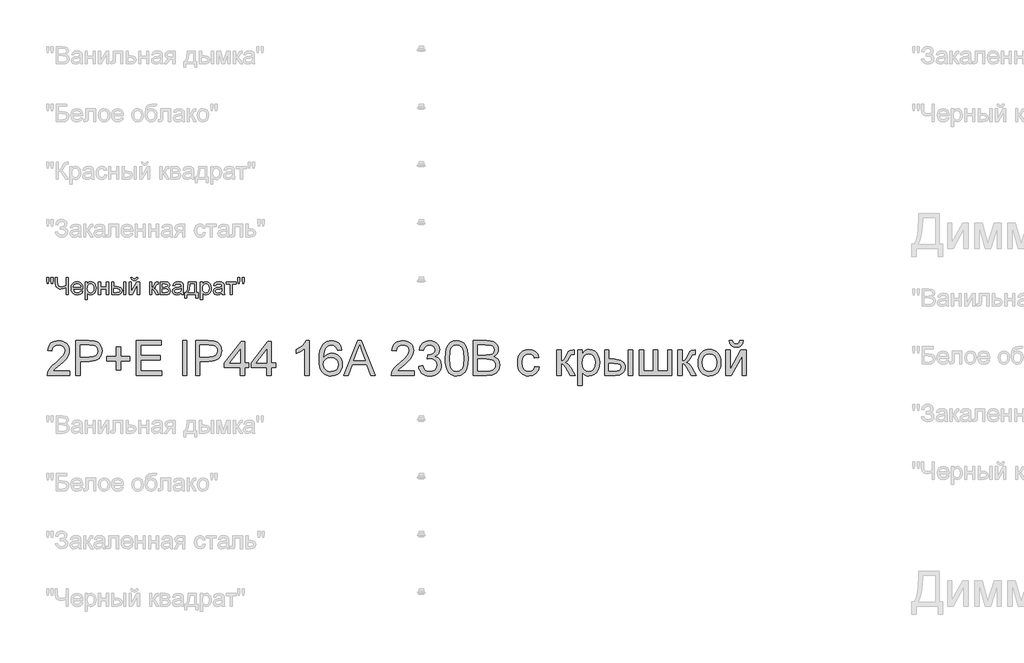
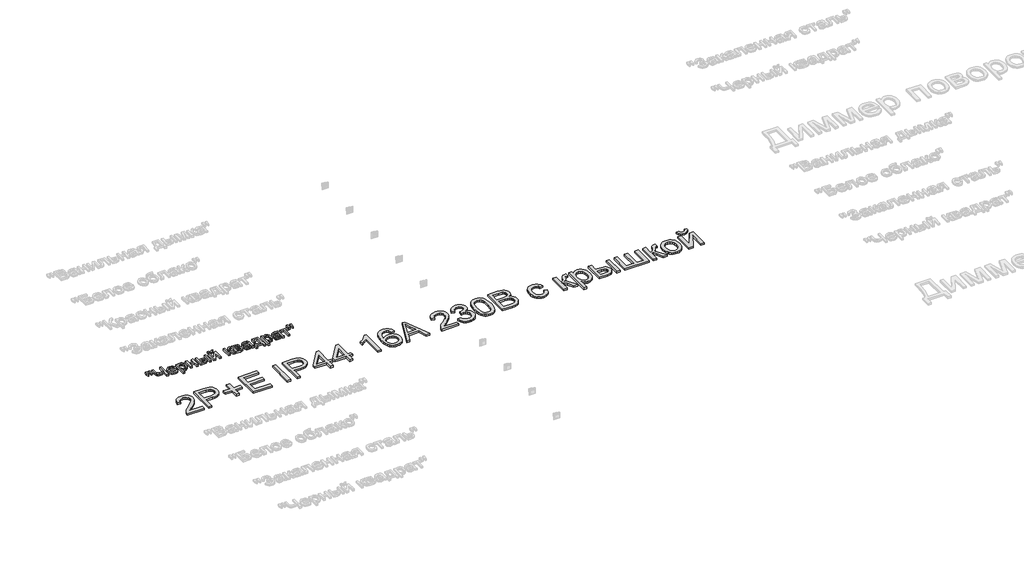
# One storey, part 152 of 168: 2 proxies.
"""IFC4 building model written with IfcOpenShell, lengths in millimetres."""

from ifc_helpers import new_model, si_unit, origin, origin_with_axes, place, context, project, spatial, polyline, outline, extrude, element, save

model = new_model("IFC4")

# Units and contexts
model_context = context("Model", 3, world=origin())
ifc_project = project(units=[si_unit("LENGTHUNIT", "METRE", prefix="MILLI")], contexts=[model_context])

# Site, building, storey
site = spatial("IfcSite", under=ifc_project)
building = spatial("IfcBuilding", under=site)
storey = spatial("IfcBuildingStorey", under=building, Name="Этаж 01", Elevation=0.0)

# Proxies
placement = place(None, origin())
element("IfcBuildingElementProxy", 1, Name="300 мм Arial 2", ObjectType="300 мм Arial 2", at=placement, inside=storey, context=model_context, shape_type="SweptSolid", body=[
    extrude(outline(polyline([(63778.0323041, -9210.7345653), (63778.0323041, -9248.4056816), (63580.2589435, -9248.4056816), (63584.3056455, -9222.4332127), (63593.5946658, -9202.1353236), (63607.1879056, -9182.4444398), (63626.8511982, -9161.8338511), (63654.3503773, -9138.776847), (63695.0013378, -9102.6692292), (63719.3919141, -9076.0161786), (63731.5872022, -9054.3847173), (63735.6522983, -9033.3418672), (63731.8171285, -9014.4787179), (63720.3116191, -8998.7977478), (63702.6256922, -8988.2303375), (63680.2492698, -8984.7078674), (63656.7508074, -8988.1475641), (63638.4946633, -8998.466654), (63626.7132424, -9014.8557969), (63622.6389493, -9036.5056523), (63584.967833, -9031.7967628), (63594.1005036, -8995.3580512), (63602.6468622, -8980.8221139), (63613.8465697, -8968.7417888), (63627.4421086, -8959.2458348), (63643.1759617, -8952.4630105), (63681.0586102, -8947.0367511), (63701.2484339, -8948.5450673), (63719.2171701, -8953.0700158), (63734.9648188, -8960.6115967), (63748.4913799, -8971.16981), (63759.3553951, -8983.9629064), (63767.1154059, -8998.2091366), (63771.7714124, -9013.9085008), (63773.3234146, -9031.0609988), (63771.6495515, -9049.0780195), (63766.6279623, -9066.7823406), (63757.7160209, -9084.7901642), (63744.3711016, -9103.7176929), (63723.0983252, -9126.3148444), (63690.4028129, -9155.3315368), (63647.0663138, -9191.5679133), (63630.0701657, -9210.7345653), (63778.0323041, -9210.7345653)])), origin_with_axes(), (0.0, 0.0, 1.0), 20.0),
    extrude(outline(polyline([(63829.830089, -9248.4056816), (63829.830089, -8947.0367511), (63941.5190628, -8947.0367511), (63986.547819, -8949.9062307), (64006.6249789, -8955.2681108), (64023.1520775, -8963.9961111), (64036.4602087, -8976.4857048), (64046.8804662, -8993.1323651), (64053.6127067, -9012.7680666), (64055.8567869, -9034.224784), (64054.3415729, -9052.7246498), (64049.795931, -9069.7437906), (64042.2198612, -9085.2822064), (64031.6133634, -9099.3398971), (64017.0521342, -9110.9925593), (63997.61187, -9119.3158895), (63973.2925708, -9124.3098875), (63944.0942367, -9125.9745536), (63867.5012053, -9125.9745536), (63867.5012053, -9248.4056816), (63829.830089, -9248.4056816)]), holes=[polyline([(63867.5012053, -9088.3034373), (63946.3015287, -9088.3034373), (63979.7052139, -9084.8453465), (64001.7781336, -9074.4710742), (64014.0837863, -9057.824414), (64018.1856706, -9035.5491592), (64015.7668464, -9018.6265874), (64008.5103741, -9004.352766), (63997.3175644, -8993.6106117), (63983.0897282, -8987.2830414), (63945.4186119, -8984.7078674), (63867.5012053, -8984.7078674), (63867.5012053, -9088.3034373)])]), origin_with_axes(), (0.0, 0.0, 1.0), 20.0),
    extrude(outline(polyline([(64178.2879149, -9201.3167862), (64178.2879149, -9121.265664), (64098.2367927, -9121.265664), (64098.2367927, -9083.5945477), (64178.2879149, -9083.5945477), (64178.2879149, -9003.5434256), (64215.9590312, -9003.5434256), (64215.9590312, -9083.5945477), (64296.0101533, -9083.5945477), (64296.0101533, -9121.265664), (64215.9590312, -9121.265664), (64215.9590312, -9201.3167862), (64178.2879149, -9201.3167862)])), origin_with_axes(), (0.0, 0.0, 1.0), 20.0),
    extrude(outline(polyline([(64352.5168278, -9248.4056816), (64352.5168278, -8947.0367511), (64569.1257465, -8947.0367511), (64569.1257465, -8984.7078674), (64390.1879441, -8984.7078674), (64390.1879441, -9074.1767687), (64559.7079675, -9074.1767687), (64559.7079675, -9111.847885), (64390.1879441, -9111.847885), (64390.1879441, -9210.7345653), (64573.8346361, -9210.7345653), (64573.8346361, -9248.4056816), (64352.5168278, -9248.4056816)])), origin_with_axes(), (0.0, 0.0, 1.0), 20.0),
    extrude(outline(polyline([(64752.7724385, -9248.4056816), (64752.7724385, -8947.0367511), (64790.4435548, -8947.0367511), (64790.4435548, -9248.4056816), (64752.7724385, -9248.4056816)])), origin_with_axes(), (0.0, 0.0, 1.0), 20.0),
    extrude(outline(polyline([(64865.7857875, -9248.4056816), (64865.7857875, -8947.0367511), (64977.4747612, -8947.0367511), (65022.5035174, -8949.9062307), (65042.5806773, -8955.2681108), (65059.1077759, -8963.9961111), (65072.4159071, -8976.4857048), (65082.8361646, -8993.1323651), (65089.5684051, -9012.7680666), (65091.8124853, -9034.224784), (65090.2972713, -9052.7246498), (65085.7516294, -9069.7437906), (65078.1755596, -9085.2822064), (65067.5690618, -9099.3398971), (65053.0078326, -9110.9925593), (65033.5675684, -9119.3158895), (65009.2482693, -9124.3098875), (64980.0499352, -9125.9745536), (64903.4569038, -9125.9745536), (64903.4569038, -9248.4056816), (64865.7857875, -9248.4056816)]), holes=[polyline([(64903.4569038, -9088.3034373), (64982.2572271, -9088.3034373), (65015.6609123, -9084.8453465), (65037.733832, -9074.4710742), (65050.0394847, -9057.824414), (65054.141369, -9035.5491592), (65051.7225449, -9018.6265874), (65044.4660725, -9004.352766), (65033.2732628, -8993.6106117), (65019.0454266, -8987.2830414), (64981.3743103, -8984.7078674), (64903.4569038, -8984.7078674), (64903.4569038, -9088.3034373)])]), origin_with_axes(), (0.0, 0.0, 1.0), 20.0),
    extrude(outline(polyline([(65251.9147296, -9248.4056816), (65251.9147296, -9177.7723385), (65115.356933, -9177.7723385), (65115.356933, -9140.1012222), (65261.3325087, -8951.7456407), (65289.5858459, -8951.7456407), (65289.5858459, -9140.1012222), (65327.2569622, -9140.1012222), (65327.2569622, -9177.7723385), (65289.5858459, -9177.7723385), (65289.5858459, -9248.4056816), (65251.9147296, -9248.4056816)]), holes=[polyline([(65251.9147296, -9140.1012222), (65251.9147296, -9023.7033589), (65161.7100644, -9140.1012222), (65251.9147296, -9140.1012222)])]), origin_with_axes(), (0.0, 0.0, 1.0), 20.0),
    extrude(outline(polyline([(65482.650317, -9248.4056816), (65482.650317, -9177.7723385), (65346.0925204, -9177.7723385), (65346.0925204, -9140.1012222), (65492.068096, -8951.7456407), (65520.3214333, -8951.7456407), (65520.3214333, -9140.1012222), (65557.9925496, -9140.1012222), (65557.9925496, -9177.7723385), (65520.3214333, -9177.7723385), (65520.3214333, -9248.4056816), (65482.650317, -9248.4056816)]), holes=[polyline([(65482.650317, -9140.1012222), (65482.650317, -9023.7033589), (65392.4456517, -9140.1012222), (65482.650317, -9140.1012222)])]), origin_with_axes(), (0.0, 0.0, 1.0), 20.0),
    extrude(outline(polyline([(65849.9437009, -9248.4056816), (65812.2725846, -9248.4056816), (65812.2725846, -9013.5498158), (65776.5880311, -9038.9704617), (65736.930352, -9057.9899609), (65736.930352, -9022.3789837), (65766.5172615, -9006.2841464), (65792.1494395, -8987.1358886), (65812.3553581, -8966.7736202), (65825.6634893, -8947.0367511), (65849.9437009, -8947.0367511), (65849.9437009, -9248.4056816)])), origin_with_axes(), (0.0, 0.0, 1.0), 20.0),
    extrude(outline(polyline([(66132.4770732, -9027.0878733), (66094.8059569, -9031.7967628), (66088.735904, -9013.1267516), (66080.5321355, -9000.3796404), (66063.4440168, -8988.6258107), (66042.7874428, -8984.7078674), (66025.2762598, -8986.9887358), (66008.7951465, -8993.8313409), (65994.6408867, -9008.2431181), (65983.080195, -9028.0811547), (65975.2718997, -9056.1413538), (65972.3748289, -9095.2196188), (65987.4855819, -9077.5888742), (66005.5945731, -9065.1636598), (66025.6901271, -9057.7968228), (66046.7605684, -9055.3412105), (66064.8603625, -9057.0196721), (66081.5622051, -9062.0550569), (66096.8660961, -9070.4473649), (66110.7720355, -9082.1965961), (66122.3281287, -9096.6037748), (66130.582481, -9112.969925), (66135.5350923, -9131.2950469), (66137.1859628, -9151.5791404), (66134.0773599, -9178.5540877), (66124.7515513, -9203.5608664), (66109.9810892, -9224.7692634), (66090.5385258, -9240.3490659), (66067.3067778, -9249.9231948), (66041.168762, -9253.1145711), (66018.7118655, -9250.9992496), (65998.4300713, -9244.6532852), (65980.3233793, -9234.0766779), (65964.3917896, -9219.2694276), (65951.403256, -9199.6061349), (65942.1257319, -9174.4614005), (65936.5592174, -9143.8352244), (65934.7037126, -9107.7276066), (65936.7638518, -9067.2467916), (65942.9442693, -9032.6980737), (65953.2449652, -9004.081453), (65967.6659394, -8981.3969295), (65983.2963257, -8966.3643514), (66001.4191125, -8955.6267957), (66022.0342998, -8949.1842623), (66045.1418876, -8947.0367511), (66078.1960849, -8952.352646), (66104.6651944, -8968.3003304), (66123.206447, -8993.6290058), (66132.4770732, -9027.0878733)]), holes=[polyline([(65972.3748289, -9150.9905292), (65974.5545298, -9167.6831748), (65981.0936322, -9183.6216622), (65991.2471753, -9197.3252665), (66004.2701979, -9207.3132627), (66019.9879562, -9213.4109068), (66038.2257061, -9215.4434548), (66063.0853319, -9211.231206), (66082.6290629, -9198.5944594), (66095.2934006, -9178.7288317), (66099.5148465, -9152.8299392), (66095.3485829, -9127.9703134), (66082.8497921, -9109.0151936), (66062.9749673, -9097.0130435), (66036.6806017, -9093.0123268), (66011.8577641, -9097.0130435), (65991.1000225, -9109.0151936), (65977.0561273, -9127.5104609), (65972.3748289, -9150.9905292)])]), origin_with_axes(), (0.0, 0.0, 1.0), 20.0),
    extrude(outline(polyline([(66149.1789158, -9248.4056816), (66269.4763282, -8947.0367511), (66301.5556382, -8947.0367511), (66421.8530506, -9248.4056816), (66382.0482188, -9248.4056816), (66347.5408876, -9154.2278908), (66223.4175025, -9154.2278908), (66188.9837477, -9248.4056816), (66149.1789158, -9248.4056816)]), holes=[polyline([(66237.2498655, -9116.5567745), (66333.782101, -9116.5567745), (66306.6324098, -9042.4653407), (66285.5159832, -8984.7078674), (66266.7540015, -9035.9906176), (66237.2498655, -9116.5567745)])]), origin_with_axes(), (0.0, 0.0, 1.0), 20.0),
    extrude(outline(polyline([(66758.7593818, -9210.7345653), (66758.7593818, -9248.4056816), (66560.9860212, -9248.4056816), (66565.0327232, -9222.4332127), (66574.3217436, -9202.1353236), (66587.9149833, -9182.4444398), (66607.5782759, -9161.8338511), (66635.0774551, -9138.776847), (66675.7284155, -9102.6692292), (66700.1189918, -9076.0161786), (66712.3142799, -9054.3847173), (66716.379376, -9033.3418672), (66712.5442062, -9014.4787179), (66701.0386968, -8998.7977478), (66683.3527699, -8988.2303375), (66660.9763475, -8984.7078674), (66637.4778851, -8988.1475641), (66619.2217411, -8998.466654), (66607.4403202, -9014.8557969), (66603.3660271, -9036.5056523), (66565.6949108, -9031.7967628), (66574.8275813, -8995.3580512), (66583.3739399, -8980.8221139), (66594.5736474, -8968.7417888), (66608.1691864, -8959.2458348), (66623.9030395, -8952.4630105), (66661.7856879, -8947.0367511), (66681.9755117, -8948.5450673), (66699.9442479, -8953.0700158), (66715.6918965, -8960.6115967), (66729.2184576, -8971.16981), (66740.0824728, -8983.9629064), (66747.8424836, -8998.2091366), (66752.4984901, -9013.9085008), (66754.0504923, -9031.0609988), (66752.3766292, -9049.0780195), (66747.35504, -9066.7823406), (66738.4430986, -9084.7901642), (66725.0981793, -9103.7176929), (66703.8254029, -9126.3148444), (66671.1298906, -9155.3315368), (66627.7933915, -9191.5679133), (66610.7972434, -9210.7345653), (66758.7593818, -9210.7345653)])), origin_with_axes(), (0.0, 0.0, 1.0), 20.0),
    extrude(outline(polyline([(66796.4304981, -9168.3545594), (66834.1016144, -9163.6456699), (66842.5353092, -9187.3188763), (66854.8869472, -9203.303349), (66871.7635337, -9212.4084283), (66893.7720741, -9215.4434548), (66919.5973901, -9211.2679942), (66939.5365943, -9198.7416122), (66952.2837054, -9180.0532069), (66956.5327424, -9157.391676), (66952.3204936, -9135.8797763), (66939.6837471, -9118.4329727), (66920.5538833, -9106.872281), (66896.8622828, -9103.0187171), (66870.4483556, -9107.1389954), (66874.6422103, -9069.4678791), (66880.675475, -9069.9093375), (66903.2450354, -9067.2054048), (66923.4233629, -9059.0936069), (66937.6603961, -9045.3716084), (66942.4060738, -9025.8370745), (66938.9663772, -9009.5674933), (66928.6472872, -8996.3697267), (66912.9019378, -8987.6233322), (66893.1834629, -8984.7078674), (66873.4281997, -8987.6509234), (66857.2781801, -8996.4800913), (66845.4875622, -9011.1953711), (66838.810504, -9031.7967628), (66801.1393877, -9027.0878733), (66812.2310298, -8993.2611238), (66831.9678989, -8968.0060248), (66858.9704373, -8952.2790696), (66891.8590877, -8947.0367511), (66915.5414911, -8949.6211221), (66937.2925141, -8957.3742352), (66955.6314316, -8969.6063115), (66969.0775185, -8985.6275724), (66977.3272722, -9004.0860515), (66980.0771901, -9023.6297825), (66977.465228, -9041.8399413), (66969.6293415, -9058.3578429), (66956.6798952, -9072.4293292), (66938.7272539, -9083.3002421), (66962.3084898, -9092.8283858), (66979.7828845, -9109.0519818), (66990.5986152, -9131.0881133), (66994.2038587, -9158.0538636), (66992.401237, -9177.1653332), (66986.9933716, -9194.7684867), (66977.9802628, -9210.863324), (66965.3619103, -9225.4498451), (66949.9890415, -9237.5531627), (66932.7123833, -9246.1983896), (66913.5319357, -9251.3855257), (66892.4476989, -9253.1145711), (66873.3914115, -9251.6384446), (66856.0273814, -9247.2100651), (66840.3556084, -9239.8294326), (66826.3760925, -9229.496547), (66814.6544525, -9216.8184138), (66805.7563067, -9202.4020381), (66799.6816553, -9186.24742), (66796.4304981, -9168.3545594)])), origin_with_axes(), (0.0, 0.0, 1.0), 20.0),
    extrude(outline(polyline([(67027.1660855, -9100.1492375), (67029.9343975, -9051.9107109), (67038.2393336, -9013.4394512), (67051.9981202, -8984.1468474), (67071.1279839, -8963.4442881), (67095.7668806, -8951.1386354), (67126.0527658, -8947.0367511), (67149.2661197, -8949.4647723), (67170.0514524, -8956.7488358), (67187.4338767, -8968.6038331), (67200.4385052, -8984.7446556), (67210.2609545, -9005.0333477), (67218.096841, -9029.3319534), (67223.2287948, -9060.1880558), (67224.9394461, -9100.1492375), (67222.1987253, -9148.1118526), (67213.9765627, -9186.4911418), (67200.3005495, -9215.8113368), (67181.1982769, -9236.5966695), (67156.504198, -9248.9850957), (67126.0527658, -9253.1145711), (67105.3042213, -9251.3211464), (67086.9101215, -9245.9408722), (67070.8704665, -9236.9737486), (67057.1852563, -9224.4197755), (67044.0518691, -9201.7260549), (67034.6708782, -9173.4497251), (67029.0422837, -9139.5907859), (67027.1660855, -9100.1492375)]), holes=[polyline([(67064.8372018, -9100.0756611), (67069.2517858, -9159.3322535), (67074.7700157, -9179.6002522), (67082.4955376, -9193.6280525), (67102.2140125, -9209.9896042), (67126.0527658, -9215.4434548), (67149.8915191, -9209.9712101), (67169.609994, -9193.5544761), (67177.3355159, -9179.5036831), (67182.8537459, -9159.240283), (67187.2683298, -9100.0756611), (67183.0008987, -9042.152641), (67177.6666097, -9021.9513209), (67170.1986052, -9007.5901275), (67150.5169185, -8990.4284325), (67125.6113074, -8984.7078674), (67102.0300715, -8989.7478508), (67083.0841488, -9004.8678008), (67075.1011095, -9020.5027856), (67069.3989386, -9041.5824239), (67064.8372018, -9100.0756611)])]), origin_with_axes(), (0.0, 0.0, 1.0), 20.0),
    extrude(outline(polyline([(67272.0283415, -9248.4056816), (67272.0283415, -8947.0367511), (67387.0282532, -8947.0367511), (67418.6569077, -8949.2532401), (67443.3509867, -8955.9027072), (67462.2785153, -8967.1506992), (67476.607519, -8983.162763), (67485.629825, -9001.9983212), (67488.6372603, -9021.7167961), (67486.1080715, -9039.8625756), (67478.5205054, -9056.9231031), (67465.8193795, -9071.849915), (67447.9495116, -9083.5945477), (67469.2958644, -9094.7413722), (67485.0688049, -9111.7007322), (67494.8084807, -9133.3505876), (67498.0550393, -9158.5688983), (67495.8385503, -9179.5841573), (67489.1890833, -9199.072706), (67479.2654664, -9215.6457899), (67467.2265281, -9227.9146544), (67452.4836572, -9236.7990046), (67434.4482424, -9243.2185454), (67386.1453364, -9248.4056816), (67272.0283415, -9248.4056816)]), holes=[polyline([(67309.6994578, -9069.4678791), (67378.4933909, -9069.4678791), (67418.6661048, -9066.2305176), (67432.728394, -9060.6479083), (67442.8359519, -9052.2877899), (67448.9335959, -9041.2789212), (67450.966144, -9027.7500609), (67449.0715517, -9014.6166736), (67443.3877749, -9003.1755436), (67434.1723309, -8994.2452082), (67421.6827371, -8988.6442048), (67373.2694666, -8984.7078674), (67309.6994578, -8984.7078674), (67309.6994578, -9069.4678791)]), polyline([(67309.6994578, -9210.7345653), (67386.9546768, -9210.7345653), (67414.9137084, -9209.2630373), (67438.5685207, -9201.0592688), (67454.2402937, -9184.320638), (67458.8480157, -9172.4932319), (67460.383923, -9158.9367803), (67458.5813013, -9143.1914309), (67453.1734359, -9129.6533735), (67443.7280657, -9119.0675691), (67429.8129292, -9112.1789788), (67410.1036513, -9108.3989913), (67383.2758568, -9107.1389954), (67309.6994578, -9107.1389954), (67309.6994578, -9210.7345653)])]), origin_with_axes(), (0.0, 0.0, 1.0), 20.0),
    extrude(outline(polyline([(67804.1328593, -9168.3545594), (67841.8039756, -9173.063449), (67831.3009447, -9206.5683017), (67811.5640756, -9231.88778), (67784.4511726, -9247.8078733), (67751.8200396, -9253.1145711), (67730.6921168, -9251.2636648), (67711.7484933, -9245.710946), (67694.9891691, -9236.4564145), (67680.4141443, -9223.5000705), (67668.6166286, -9207.0856357), (67660.1898317, -9187.456832), (67655.1337535, -9164.6136594), (67653.4483941, -9138.5561178), (67656.3270707, -9105.032871), (67664.9631006, -9075.9793904), (67679.4944394, -9052.5177162), (67700.0590429, -9035.7698884), (67724.6611513, -9025.7267099), (67751.3050048, -9022.3789837), (67783.1359945, -9026.9775087), (67808.5842315, -9040.7730835), (67826.8403755, -9063.0299442), (67837.0950861, -9093.0123268), (67799.4239698, -9097.7212163), (67792.5905617, -9081.2860882), (67781.949575, -9069.5046673), (67768.0896208, -9062.4137419), (67751.5993104, -9060.0501), (67727.2547194, -9064.7038073), (67707.9317176, -9078.664929), (67695.3225622, -9102.6876233), (67691.1195104, -9137.5260482), (67695.2305917, -9172.8335227), (67707.5638356, -9196.9389904), (67726.5373495, -9210.8173387), (67750.5692408, -9215.4434548), (67770.0761836, -9212.5555811), (67786.0698534, -9203.8919602), (67797.7041215, -9189.2318626), (67804.1328593, -9168.3545594)])), origin_with_axes(), (0.0, 0.0, 1.0), 20.0),
    extrude(outline(polyline([(67992.4884409, -9027.0878733), (68030.1595572, -9027.0878733), (68030.1595572, -9121.265664), (68045.4818423, -9119.5734069), (68055.396262, -9114.4966353), (68064.1702476, -9101.2528835), (68076.0712302, -9075.0596854), (68093.2513193, -9041.0306009), (68108.4080575, -9029.9573528), (68135.962419, -9027.0878733), (68143.1729061, -9027.0878733), (68143.1729061, -9064.9797188), (68133.019363, -9064.7589896), (68114.6252633, -9068.7321151), (68101.675817, -9093.5273616), (68086.4822906, -9120.345959), (68065.1819231, -9133.4793463), (68077.1196938, -9138.7814455), (68088.9471, -9148.1394438), (68112.2708185, -9179.0231373), (68152.5906852, -9248.4056816), (68109.7692209, -9248.4056816), (68070.2586946, -9180.4946653), (68050.3930669, -9151.7630814), (68041.1040465, -9146.5483542), (68030.1595572, -9144.8101117), (68030.1595572, -9248.4056816), (67992.4884409, -9248.4056816), (67992.4884409, -9027.0878733)])), origin_with_axes(), (0.0, 0.0, 1.0), 20.0),
    extrude(outline(polyline([(68176.1351328, -9333.1656933), (68176.1351328, -9027.0878733), (68213.8062492, -9027.0878733), (68213.8062492, -9064.0232256), (68226.0935078, -9045.8038698), (68239.8522944, -9032.7900442), (68255.8919494, -9024.9817488), (68275.0218132, -9022.3789837), (68300.4976413, -9026.0210155), (68322.7728961, -9036.9471107), (68340.9094785, -9054.4950819), (68353.9692893, -9078.0027414), (68361.8603581, -9105.7594379), (68364.4907144, -9136.0545202), (68361.5200673, -9168.271786), (68352.6081259, -9197.0861432), (68338.0399989, -9221.0352611), (68318.1007948, -9238.6568087), (68294.8782438, -9249.5001305), (68270.4600764, -9253.1145711), (68253.1420315, -9250.695747), (68237.6817906, -9243.4392746), (68224.4472359, -9232.4855882), (68213.8062492, -9218.975122), (68213.8062492, -9333.1656933), (68176.1351328, -9333.1656933)]), holes=[polyline([(68213.8062492, -9139.512611), (68217.8805423, -9173.2841782), (68230.1034215, -9196.9022022), (68248.1388364, -9210.8081417), (68269.650736, -9215.4434548), (68291.5121236, -9210.6425948), (68310.0073909, -9196.2400147), (68322.6165463, -9171.7574679), (68326.8195981, -9136.7167078), (68322.7177138, -9103.1290817), (68310.4120611, -9079.1799638), (68292.4042374, -9064.832566), (68271.1958404, -9060.0501), (68249.9046699, -9065.1360686), (68231.2070675, -9080.3939744), (68218.1564537, -9105.3455707), (68213.8062492, -9139.512611)])]), origin_with_axes(), (0.0, 0.0, 1.0), 20.0),
    extrude(outline(polyline([(68614.0618599, -9027.0878733), (68651.7329762, -9027.0878733), (68651.7329762, -9248.4056816), (68614.0618599, -9248.4056816), (68614.0618599, -9027.0878733)])), origin_with_axes(), (0.0, 0.0, 1.0), 20.0),
    extrude(outline(polyline([(68406.8707202, -9027.0878733), (68444.5418365, -9027.0878733), (68444.5418365, -9107.1389954), (68491.1156971, -9107.1389954), (68531.3711844, -9111.857082), (68547.5878826, -9117.7546902), (68561.1972172, -9126.0113418), (68571.9646633, -9136.3419281), (68579.6556963, -9148.4613405), (68584.2703161, -9162.3695792), (68585.8085227, -9178.0666441), (68580.6489777, -9205.0231973), (68565.1703427, -9227.7675016), (68553.3084477, -9236.7967054), (68538.3609424, -9243.2461366), (68499.209101, -9248.4056816), (68406.8707202, -9248.4056816), (68406.8707202, -9027.0878733)]), holes=[polyline([(68444.5418365, -9210.7345653), (68483.2430224, -9210.7345653), (68513.2437991, -9208.7571995), (68533.2013974, -9202.8251024), (68544.4034041, -9192.6991504), (68548.1374064, -9178.1402205), (68545.3690944, -9165.8345678), (68537.0641583, -9154.9636548), (68519.304655, -9147.3484975), (68488.1726412, -9144.8101117), (68444.5418365, -9144.8101117), (68444.5418365, -9210.7345653)])]), origin_with_axes(), (0.0, 0.0, 1.0), 20.0),
    extrude(outline(polyline([(68708.2396507, -9027.0878733), (68745.910767, -9027.0878733), (68745.910767, -9210.7345653), (68830.6707787, -9210.7345653), (68830.6707787, -9027.0878733), (68868.341895, -9027.0878733), (68868.341895, -9210.7345653), (68953.1019067, -9210.7345653), (68953.1019067, -9027.0878733), (68990.773023, -9027.0878733), (68990.773023, -9248.4056816), (68708.2396507, -9248.4056816), (68708.2396507, -9027.0878733)])), origin_with_axes(), (0.0, 0.0, 1.0), 20.0),
    extrude(outline(polyline([(69042.5708079, -9027.0878733), (69080.2419242, -9027.0878733), (69080.2419242, -9121.265664), (69095.5642093, -9119.5734069), (69105.4786291, -9114.4966353), (69114.2526146, -9101.2528835), (69126.1535972, -9075.0596854), (69143.3336864, -9041.0306009), (69158.4904246, -9029.9573528), (69186.044786, -9027.0878733), (69193.2552731, -9027.0878733), (69193.2552731, -9064.9797188), (69183.10173, -9064.7589896), (69164.7076303, -9068.7321151), (69151.7581841, -9093.5273616), (69136.5646577, -9120.345959), (69115.2642901, -9133.4793463), (69127.2020609, -9138.7814455), (69139.029467, -9148.1394438), (69162.3531855, -9179.0231373), (69202.6730522, -9248.4056816), (69159.851588, -9248.4056816), (69120.3410617, -9180.4946653), (69100.4754339, -9151.7630814), (69091.1864136, -9146.5483542), (69080.2419242, -9144.8101117), (69080.2419242, -9248.4056816), (69042.5708079, -9248.4056816), (69042.5708079, -9027.0878733)])), origin_with_axes(), (0.0, 0.0, 1.0), 20.0),
    extrude(outline(polyline([(69216.7997208, -9137.7467774), (69218.8368674, -9109.0841715), (69224.948307, -9084.385494), (69235.1340397, -9063.6507451), (69249.3940656, -9046.8799246), (69263.7506604, -9036.160763), (69279.5971774, -9028.504219), (69296.9336164, -9023.9102925), (69315.7599775, -9022.3789837), (69336.543011, -9024.2436856), (69355.3348831, -9029.8377912), (69372.135594, -9039.1613005), (69386.9451436, -9052.2142135), (69399.0323664, -9068.5550719), (69407.666097, -9087.7424172), (69412.8463353, -9109.7762495), (69414.5730814, -9134.6565687), (69411.5196609, -9172.7139611), (69402.3593992, -9201.6846682), (69387.3590108, -9223.3805088), (69366.7852102, -9239.6133019), (69342.3486487, -9249.7392538), (69315.7599775, -9253.1145711), (69294.6734414, -9251.256767), (69275.7068253, -9245.6833548), (69258.8601292, -9236.3943344), (69244.133353, -9223.3897059), (69232.1748889, -9206.8901984), (69223.6331289, -9187.1165412), (69218.5080728, -9164.0687342), (69216.7997208, -9137.7467774)]), holes=[polyline([(69254.4708371, -9137.673201), (69258.8302388, -9171.7666649), (69271.9084437, -9196.0560737), (69291.5901304, -9210.5966095), (69315.7599775, -9215.4434548), (69339.81946, -9210.5690184), (69359.4643585, -9195.9457091), (69372.5425635, -9171.3344036), (69376.9019651, -9136.4959786), (69372.5149723, -9103.3957961), (69359.3539939, -9079.4374812), (69339.6815042, -9064.8969453), (69315.7599775, -9060.0501), (69291.5901304, -9064.8785512), (69271.9084437, -9079.3639048), (69258.8302388, -9103.5981312), (69254.4708371, -9137.673201)])]), origin_with_axes(), (0.0, 0.0, 1.0), 20.0),
    extrude(outline(polyline([(69456.9530873, -9027.0878733), (69494.6242036, -9027.0878733), (69494.6242036, -9195.8721327), (69587.1833135, -9027.0878733), (69635.8908897, -9027.0878733), (69635.8908897, -9248.4056816), (69598.2197734, -9248.4056816), (69598.2197734, -9080.6514918), (69506.2492746, -9248.4056816), (69456.9530873, -9248.4056816), (69456.9530873, -9027.0878733)])), origin_with_axes(), (0.0, 0.0, 1.0), 20.0),
    extrude(outline(polyline([(69579.3842153, -8947.0367511), (69607.6375525, -8947.0367511), (69601.5583025, -8971.160613), (69589.3538173, -8988.9385104), (69571.5759199, -8999.8921968), (69548.7764333, -9003.5434256), (69524.0363691, -8999.9197879), (69504.851323, -8989.048875), (69491.7363299, -8971.2985687), (69485.2064245, -8947.0367511), (69513.4597617, -8947.0367511), (69517.4328873, -8959.4435714), (69524.0547632, -8968.2635422), (69533.3621777, -8973.5334518), (69545.3919189, -8975.2900883), (69558.9667645, -8973.5886341), (69568.7892138, -8968.4842714), (69575.4110897, -8959.7194829), (69579.3842153, -8947.0367511)])), origin_with_axes(), (0.0, 0.0, 1.0), 20.0),
])
element("IfcBuildingElementProxy", 2, Name="150", ObjectType="150", at=placement, inside=storey, context=model_context, shape_type="SweptSolid", body=[
    extrude(outline(polyline([(63580.1485789, -8451.873446), (63575.550054, -8422.7739802), (63575.550054, -8397.7212163), (63594.3856121, -8397.7212163), (63594.3856121, -8422.7739802), (63590.2653338, -8451.873446), (63580.1485789, -8451.873446)])), origin_with_axes(), (0.0, 0.0, 1.0), 20.0),
    extrude(outline(polyline([(63617.7093306, -8451.873446), (63613.2211703, -8422.7739802), (63613.2211703, -8397.7212163), (63632.0567284, -8397.7212163), (63632.0567284, -8422.7739802), (63627.6421445, -8451.873446), (63617.7093306, -8451.873446)])), origin_with_axes(), (0.0, 0.0, 1.0), 20.0),
    extrude(outline(polyline([(63763.9056355, -8548.4056816), (63745.0700773, -8548.4056816), (63745.0700773, -8488.0730344), (63720.0908899, -8496.2400147), (63698.4226404, -8498.9623414), (63683.7395502, -8497.0999388), (63670.886673, -8491.512731), (63660.926268, -8483.0606422), (63654.9205944, -8472.6035965), (63650.8922866, -8442.6028198), (63650.8922866, -8397.7212163), (63669.7278447, -8397.7212163), (63669.7278447, -8440.064434), (63671.990319, -8460.4313009), (63678.7777418, -8472.3828673), (63688.7381468, -8478.1908043), (63700.5195677, -8480.1267833), (63722.2521966, -8477.7907326), (63745.0700773, -8470.7825806), (63745.0700773, -8397.7212163), (63763.9056355, -8397.7212163), (63763.9056355, -8548.4056816)])), origin_with_axes(), (0.0, 0.0, 1.0), 20.0),
    extrude(outline(polyline([(63871.9893657, -8515.4434548), (63890.4570418, -8517.7978996), (63883.8029763, -8531.713036), (63873.1849822, -8542.1148995), (63858.8421829, -8548.5988196), (63841.0137017, -8550.7601263), (63818.9131908, -8547.0307226), (63801.9078456, -8535.8425114), (63791.0645238, -8517.9220597), (63787.4500832, -8493.9959345), (63791.101312, -8469.2650674), (63802.0549984, -8450.7698), (63818.8304174, -8439.2366995), (63839.9468439, -8435.3923327), (63860.4056814, -8439.2275025), (63876.7534375, -8450.7330118), (63887.4725992, -8469.191491), (63891.045653, -8493.8855699), (63890.9352884, -8498.9623414), (63806.2856413, -8498.9623414), (63809.5459955, -8513.0614189), (63817.1197661, -8523.4264941), (63828.0504599, -8529.8000497), (63841.3815837, -8531.9245682), (63859.8492598, -8527.9882308), (63871.9893657, -8515.4434548)]), holes=[polyline([(63806.2856413, -8480.1267833), (63872.2100949, -8480.1267833), (63869.6625121, -8470.1755753), (63864.668514, -8463.0570587), (63853.6872364, -8456.4351828), (63839.8732675, -8454.2278908), (63827.1767401, -8455.9891259), (63816.6783077, -8461.272831), (63809.3804486, -8469.5087892), (63806.2856413, -8480.1267833)])]), origin_with_axes(), (0.0, 0.0, 1.0), 20.0),
    extrude(outline(polyline([(63909.8812112, -8590.7856874), (63909.8812112, -8437.7467774), (63928.7167693, -8437.7467774), (63928.7167693, -8456.2144536), (63941.739792, -8440.5978629), (63959.3245513, -8435.3923327), (63972.0624654, -8437.2133485), (63983.2000928, -8442.6763962), (63992.268384, -8451.4503817), (63998.7982894, -8463.2042115), (64004.0590019, -8492.2301009), (64002.5736784, -8508.3387338), (63998.1177077, -8522.7459124), (63990.8336442, -8534.7204713), (63980.8640422, -8543.5312451), (63969.2527667, -8548.952906), (63957.043683, -8550.7601263), (63940.6545401, -8545.9224781), (63928.7167693, -8533.6904018), (63928.7167693, -8590.7856874), (63909.8812112, -8590.7856874)]), holes=[polyline([(63928.7167693, -8493.9591463), (63930.7539159, -8510.8449299), (63936.8653555, -8522.6539419), (63945.8830629, -8529.6069116), (63956.6390128, -8531.9245682), (63967.5697066, -8529.5241382), (63976.8173402, -8522.3228481), (63983.1219179, -8510.0815747), (63985.2234438, -8492.5611947), (63983.1725017, -8475.7673816), (63977.0196753, -8463.7928227), (63968.0157635, -8456.6191238), (63957.411565, -8454.2278908), (63946.7659797, -8456.7708751), (63937.4171785, -8464.399828), (63930.8918716, -8476.8756261), (63928.7167693, -8493.9591463)])]), origin_with_axes(), (0.0, 0.0, 1.0), 20.0),
    extrude(outline(polyline([(64025.2490049, -8437.7467774), (64044.084563, -8437.7467774), (64044.084563, -8480.1267833), (64093.5279032, -8480.1267833), (64093.5279032, -8437.7467774), (64112.3634613, -8437.7467774), (64112.3634613, -8548.4056816), (64093.5279032, -8548.4056816), (64093.5279032, -8498.9623414), (64044.084563, -8498.9623414), (64044.084563, -8548.4056816), (64025.2490049, -8548.4056816), (64025.2490049, -8437.7467774)])), origin_with_axes(), (0.0, 0.0, 1.0), 20.0),
    extrude(outline(polyline([(64244.2123684, -8437.7467774), (64263.0479266, -8437.7467774), (64263.0479266, -8548.4056816), (64244.2123684, -8548.4056816), (64244.2123684, -8437.7467774)])), origin_with_axes(), (0.0, 0.0, 1.0), 20.0),
    extrude(outline(polyline([(64140.6167986, -8437.7467774), (64159.4523567, -8437.7467774), (64159.4523567, -8477.7723385), (64182.739287, -8477.7723385), (64202.8670307, -8480.1313818), (64217.780047, -8487.2085117), (64227.0092866, -8498.433511), (64230.0856998, -8513.2361628), (64227.5059273, -8526.7144394), (64219.7666098, -8538.0865916), (64206.3619096, -8545.8259091), (64186.785989, -8548.4056816), (64140.6167986, -8548.4056816), (64140.6167986, -8437.7467774)]), holes=[polyline([(64159.4523567, -8529.5701234), (64178.8029497, -8529.5701234), (64203.7821371, -8525.615392), (64209.3831405, -8520.552416), (64211.2501416, -8513.272951), (64205.7135176, -8501.6846682), (64196.8337659, -8497.8770895), (64181.267759, -8496.6078966), (64159.4523567, -8496.6078966), (64159.4523567, -8529.5701234)])]), origin_with_axes(), (0.0, 0.0, 1.0), 20.0),
    extrude(outline(polyline([(64291.3012638, -8437.7467774), (64310.1368219, -8437.7467774), (64310.1368219, -8522.1389071), (64356.4163769, -8437.7467774), (64380.770165, -8437.7467774), (64380.770165, -8548.4056816), (64361.9346069, -8548.4056816), (64361.9346069, -8464.5285867), (64315.9493575, -8548.4056816), (64291.3012638, -8548.4056816), (64291.3012638, -8437.7467774)])), origin_with_axes(), (0.0, 0.0, 1.0), 20.0),
    extrude(outline(polyline([(64352.5168278, -8397.7212163), (64366.6434964, -8397.7212163), (64363.6038714, -8409.7831473), (64357.5016288, -8418.672096), (64348.6126801, -8424.1489392), (64337.2129368, -8425.9745536), (64324.8429047, -8424.1627347), (64315.2503817, -8418.7272783), (64308.6928851, -8409.8521251), (64305.4279324, -8397.7212163), (64319.554601, -8397.7212163), (64324.8521017, -8408.3346119), (64335.5206796, -8411.847885), (64347.219327, -8408.4449765), (64352.5168278, -8397.7212163)])), origin_with_axes(), (0.0, 0.0, 1.0), 20.0),
    extrude(outline(polyline([(64467.8846215, -8437.7467774), (64486.7201796, -8437.7467774), (64486.7201796, -8484.8356728), (64499.3385321, -8481.4511584), (64509.6760161, -8461.7326835), (64518.2660607, -8444.7181412), (64525.8444298, -8439.1815172), (64539.6216105, -8437.7467774), (64543.2268541, -8437.7467774), (64543.2268541, -8456.6927002), (64538.1500825, -8456.5823356), (64528.9530327, -8458.5688983), (64522.4783096, -8470.9665216), (64514.8815464, -8484.3758203), (64504.2313626, -8490.9425139), (64516.113951, -8498.2725627), (64527.7758103, -8513.7144094), (64547.9357436, -8548.4056816), (64526.5250115, -8548.4056816), (64506.7697484, -8514.4501734), (64496.8369345, -8500.0843815), (64486.7201796, -8496.6078966), (64486.7201796, -8548.4056816), (64467.8846215, -8548.4056816), (64467.8846215, -8437.7467774)])), origin_with_axes(), (0.0, 0.0, 1.0), 20.0),
    extrude(outline(polyline([(64559.7079675, -8437.7467774), (64601.2050565, -8437.7467774), (64623.9585579, -8440.2667691), (64636.7608514, -8449.5006072), (64642.1135344, -8465.5954445), (64638.8761728, -8478.6736494), (64629.1273, -8487.999458), (64641.7824406, -8498.2081833), (64646.8224239, -8515.9584896), (64643.6310476, -8530.3150845), (64636.0434815, -8540.4226423), (64624.0321343, -8546.4099217), (64607.569415, -8548.4056816), (64559.7079675, -8548.4056816), (64559.7079675, -8437.7467774)]), holes=[polyline([(64578.5435256, -8480.1267833), (64597.1583546, -8480.1267833), (64612.5174279, -8479.1702901), (64619.9854324, -8475.3443173), (64623.2779762, -8468.4281358), (64621.8340394, -8462.8087383), (64617.5022289, -8459.1942977), (64597.7469658, -8456.5823356), (64578.5435256, -8456.5823356), (64578.5435256, -8480.1267833)]), polyline([(64578.5435256, -8529.5701234), (64601.6465149, -8529.5701234), (64622.137542, -8526.167215), (64626.377382, -8521.5273033), (64627.9868658, -8514.4133852), (64624.7678983, -8505.345094), (64616.3801888, -8500.0659874), (64599.8071049, -8498.9623414), (64578.5435256, -8498.9623414), (64578.5435256, -8529.5701234)])]), origin_with_axes(), (0.0, 0.0, 1.0), 20.0),
    extrude(outline(polyline([(64741.0002147, -8534.279013), (64722.7348736, -8547.0445182), (64702.5565462, -8550.7601263), (64686.8157953, -8548.5252432), (64675.2045198, -8541.8205939), (64668.0446165, -8531.6394596), (64665.6579821, -8518.975122), (64669.2632256, -8504.0759012), (64678.736187, -8493.2601705), (64691.9247565, -8487.079753), (64708.2219289, -8484.2470616), (64740.8898501, -8477.7723385), (64741.0002147, -8473.5784838), (64739.7034307, -8465.1723802), (64735.8130786, -8459.6725443), (64727.1126694, -8455.5890542), (64714.9909576, -8454.2278908), (64695.9346703, -8457.8515285), (64686.847985, -8470.7090042), (64668.0124268, -8468.3545594), (64676.161013, -8449.9604597), (64692.56855, -8439.1815172), (64717.4189788, -8435.3923327), (64740.2460566, -8438.7400588), (64753.1403205, -8447.1461624), (64758.9160679, -8459.9300617), (64759.8357728, -8476.4111751), (64759.8357728, -8499.8452582), (64760.792266, -8532.5683617), (64764.5446624, -8548.4056816), (64745.7091042, -8548.4056816), (64741.0002147, -8534.279013)]), holes=[polyline([(64741.0002147, -8496.6078966), (64710.6131619, -8502.383644), (64694.40796, -8505.4370645), (64687.0687142, -8510.4034715), (64684.4935402, -8517.6507468), (64690.1037407, -8527.841078), (64706.5664599, -8531.9245682), (64725.6227473, -8527.4180137), (64737.9100059, -8516.5103126), (64740.8898501, -8501.9421856), (64741.0002147, -8496.6078966)])]), origin_with_axes(), (0.0, 0.0, 1.0), 20.0),
    extrude(outline(polyline([(64802.2157787, -8437.7467774), (64872.8491218, -8437.7467774), (64872.8491218, -8529.5701234), (64886.9757904, -8529.5701234), (64886.9757904, -8579.0134636), (64868.1402322, -8579.0134636), (64868.1402322, -8548.4056816), (64790.4435548, -8548.4056816), (64790.4435548, -8579.0134636), (64771.6079967, -8579.0134636), (64771.6079967, -8529.5701234), (64783.3802205, -8529.5701234), (64791.9380754, -8514.105284), (64797.9299534, -8493.6464466), (64802.2157787, -8437.7467774)]), holes=[polyline([(64818.6968921, -8456.5823356), (64814.2823081, -8499.4957703), (64804.5702235, -8529.5701234), (64854.0135636, -8529.5701234), (64854.0135636, -8456.5823356), (64818.6968921, -8456.5823356)])]), origin_with_axes(), (0.0, 0.0, 1.0), 20.0),
    extrude(outline(polyline([(64908.1657933, -8590.7856874), (64908.1657933, -8437.7467774), (64927.0013514, -8437.7467774), (64927.0013514, -8456.2144536), (64940.0243741, -8440.5978629), (64957.6091334, -8435.3923327), (64970.3470475, -8437.2133485), (64981.4846749, -8442.6763962), (64990.5529661, -8451.4503817), (64997.0828715, -8463.2042115), (65002.3435841, -8492.2301009), (65000.8582605, -8508.3387338), (64996.4022898, -8522.7459124), (64989.1182263, -8534.7204713), (64979.1486243, -8543.5312451), (64967.5373488, -8548.952906), (64955.3282651, -8550.7601263), (64938.9391222, -8545.9224781), (64927.0013514, -8533.6904018), (64927.0013514, -8590.7856874), (64908.1657933, -8590.7856874)]), holes=[polyline([(64927.0013514, -8493.9591463), (64929.038498, -8510.8449299), (64935.1499376, -8522.6539419), (64944.167645, -8529.6069116), (64954.9235949, -8531.9245682), (64965.8542887, -8529.5241382), (64975.1019223, -8522.3228481), (64981.4065, -8510.0815747), (64983.5080259, -8492.5611947), (64981.4570838, -8475.7673816), (64975.3042574, -8463.7928227), (64966.3003456, -8456.6191238), (64955.6961471, -8454.2278908), (64945.0505618, -8456.7708751), (64935.7017606, -8464.399828), (64929.1764537, -8476.8756261), (64927.0013514, -8493.9591463)])]), origin_with_axes(), (0.0, 0.0, 1.0), 20.0),
    extrude(outline(polyline([(65094.1669301, -8534.279013), (65075.901589, -8547.0445182), (65055.7232616, -8550.7601263), (65039.9825107, -8548.5252432), (65028.3712352, -8541.8205939), (65021.2113319, -8531.6394596), (65018.8246974, -8518.975122), (65022.429941, -8504.0759012), (65031.9029024, -8493.2601705), (65045.0914719, -8487.079753), (65061.3886443, -8484.2470616), (65094.0565655, -8477.7723385), (65094.1669301, -8473.5784838), (65092.870146, -8465.1723802), (65088.9797939, -8459.6725443), (65080.2793847, -8455.5890542), (65068.157673, -8454.2278908), (65049.1013856, -8457.8515285), (65040.0147004, -8470.7090042), (65021.1791422, -8468.3545594), (65029.3277284, -8449.9604597), (65045.7352654, -8439.1815172), (65070.5856942, -8435.3923327), (65093.412772, -8438.7400588), (65106.3070359, -8447.1461624), (65112.0827832, -8459.9300617), (65113.0024882, -8476.4111751), (65113.0024882, -8499.8452582), (65113.9589814, -8532.5683617), (65117.7113777, -8548.4056816), (65098.8758196, -8548.4056816), (65094.1669301, -8534.279013)]), holes=[polyline([(65094.1669301, -8496.6078966), (65063.7798773, -8502.383644), (65047.5746754, -8505.4370645), (65040.2354296, -8510.4034715), (65037.6602556, -8517.6507468), (65043.270456, -8527.841078), (65059.7331753, -8531.9245682), (65078.7894627, -8527.4180137), (65091.0767213, -8516.5103126), (65094.0565655, -8501.9421856), (65094.1669301, -8496.6078966)])]), origin_with_axes(), (0.0, 0.0, 1.0), 20.0),
    extrude(outline(polyline([(65129.4836016, -8437.7467774), (65218.9525028, -8437.7467774), (65218.9525028, -8456.5823356), (65183.6358313, -8456.5823356), (65183.6358313, -8548.4056816), (65164.8002731, -8548.4056816), (65164.8002731, -8456.5823356), (65129.4836016, -8456.5823356), (65129.4836016, -8437.7467774)])), origin_with_axes(), (0.0, 0.0, 1.0), 20.0),
    extrude(outline(polyline([(65235.3232516, -8451.873446), (65230.7247267, -8422.7739802), (65230.7247267, -8397.7212163), (65249.5602848, -8397.7212163), (65249.5602848, -8422.7739802), (65245.4400065, -8451.873446), (65235.3232516, -8451.873446)])), origin_with_axes(), (0.0, 0.0, 1.0), 20.0),
    extrude(outline(polyline([(65272.8840033, -8451.873446), (65268.395843, -8422.7739802), (65268.395843, -8397.7212163), (65287.2314011, -8397.7212163), (65287.2314011, -8422.7739802), (65282.8168172, -8451.873446), (65272.8840033, -8451.873446)])), origin_with_axes(), (0.0, 0.0, 1.0), 20.0),
])

save(model, "model.ifc")
